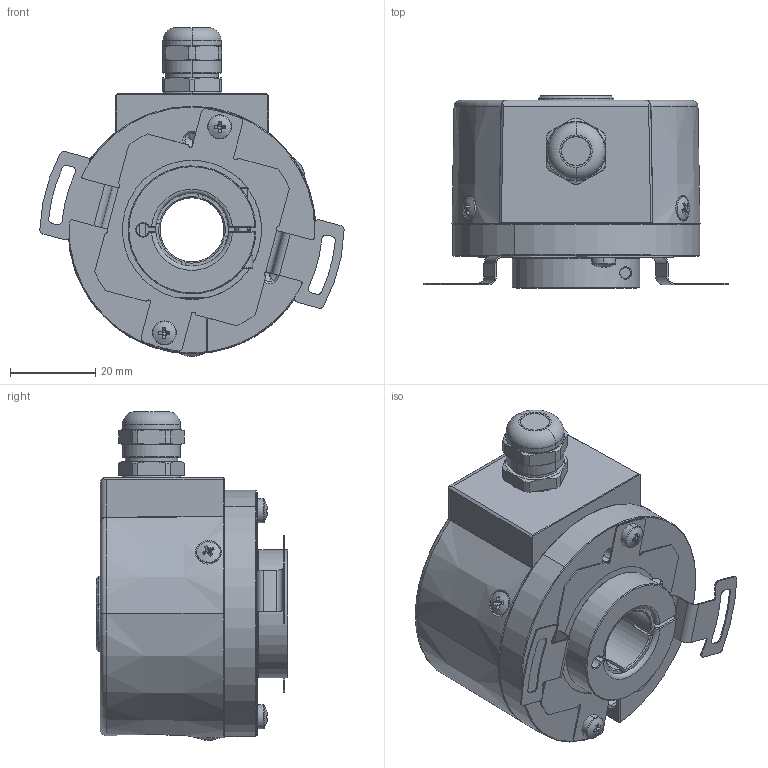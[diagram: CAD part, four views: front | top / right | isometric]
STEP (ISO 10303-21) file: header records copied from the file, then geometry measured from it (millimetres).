
FILE_DESCRIPTION (( 'STEP AP214' ), '1' );
FILE_NAME ('BSP1M8x3x.STEP', '2024-07-03T07:34:17', ( '' ), ( '' ), 'SwSTEP 2.0', 'SolidWorks 2019', '' );
FILE_SCHEMA (( 'AUTOMOTIVE_DESIGN' ));
Length unit declared in the file: millimetre
Products named in the file (1): BSP1M8x3x
Bounding box: 71.33 x 45 x 77.06 mm (x, y, z)
Volume: 58213.7 mm3; surface area: 35588.3 mm2
Topology: 1 solids, 23 shells, 1068 faces, 2729 edges, 1704 vertices
Faces by surface type: plane 561, cylinder 249, cone 164, bspline 59, sphere 18, torus 17
Entity records: 49048 total; most frequent: CARTESIAN_POINT 12428, ORIENTED_EDGE 5402, DIRECTION 4947, EDGE_CURVE 2701, AXIS2_PLACEMENT_3D 1939, VERTEX_POINT 1704, EDGE_LOOP 1151, UNCERTAINTY_MEASURE_WITH_UNIT 1071
